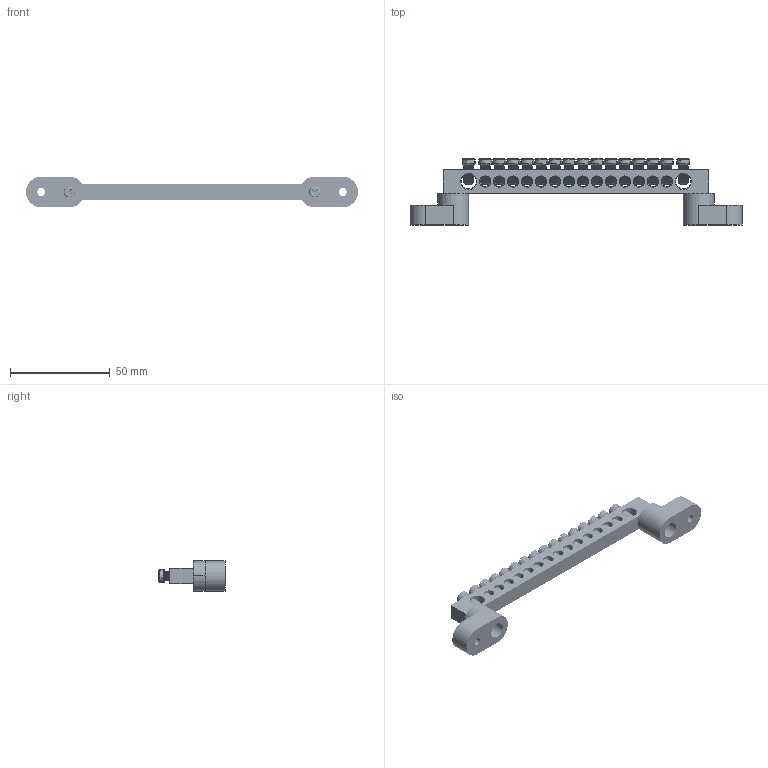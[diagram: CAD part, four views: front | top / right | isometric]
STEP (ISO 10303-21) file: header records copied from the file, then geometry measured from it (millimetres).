
FILE_DESCRIPTION (( 'STEP AP214' ), '1' );
FILE_NAME ('277910 OptiKit BB-T-N-S-16-8õ12-ñèíèé.STEP', '2020-02-06T12:40:54', ( '' ), ( '' ), 'SwSTEP 2.0', 'SolidWorks 2018', '' );
FILE_SCHEMA (( 'AUTOMOTIVE_DESIGN' ));
Length unit declared in the file: millimetre
Products named in the file (6): Âèíò ì4; DIN èçîëÿòîð 2; Øèíà íóëåâàÿ ñ êðåïåæíûìè îòâåðñòèÿìè ïî êðàÿì 8õ12 16-2_1; Âèíò ì5; Øèíà 8õ12 16 2; 277910 OptiKit BB-T-N-S-16-8õ12-ñèíèé
Assembly tree (22 placements, depth 3):
  277910 OptiKit BB-T-N-S-16-8õ12-ñèíèé
    Øèíà íóëåâàÿ ñ êðåïåæíûìè îòâåðñòèÿìè ïî êðàÿì 8õ12 16-2_1
      Øèíà 8õ12 16 2
      Âèíò ì5  x16
    DIN èçîëÿòîð 2  x2
    Âèíò ì4  x2
Bounding box: 166.4 x 33.1 x 15.4 mm (x, y, z)
Volume: 21696.1 mm3; surface area: 17738.9 mm2
Topology: 21 solids, 21 shells, 1508 faces, 4170 edges, 2688 vertices
Faces by surface type: cylinder 580, plane 504, cone 242, torus 126, bspline 56
Entity records: 14696 total; most frequent: CARTESIAN_POINT 6798, ORIENTED_EDGE 1566, DIRECTION 1469, EDGE_CURVE 783, AXIS2_PLACEMENT_3D 579, VERTEX_POINT 496, EDGE_LOOP 373, LINE 311
